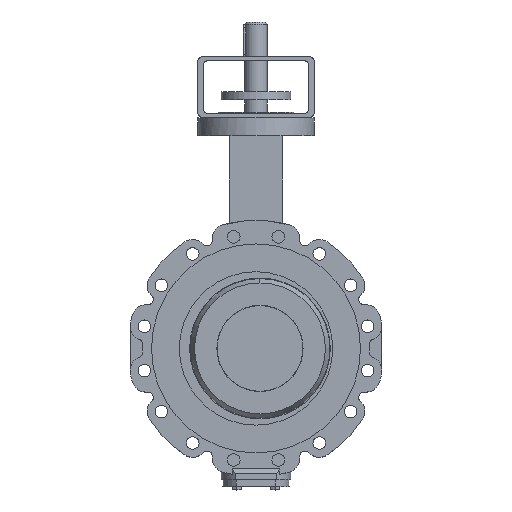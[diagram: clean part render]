
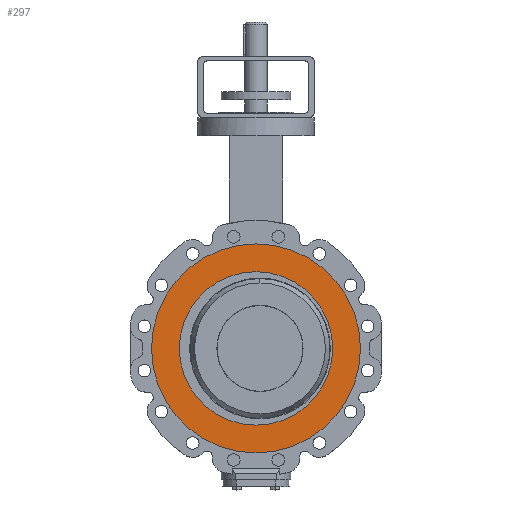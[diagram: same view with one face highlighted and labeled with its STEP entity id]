
A CAD part, top view. The second image highlights one B-rep face of the part: STEP entity #297.
In plain terms, the highlighted planar face has unit normal (0, 0, 1).
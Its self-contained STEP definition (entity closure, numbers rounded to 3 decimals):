
#297 = ADVANCED_FACE( '', ( #846, #847 ), #848, .T. );
#846 = FACE_BOUND( '', #1502, .T. );
#847 = FACE_OUTER_BOUND( '', #1503, .T. );
#848 = PLANE( '', #1504 );
#1502 = EDGE_LOOP( '', ( #3396, #3397, #3398 ) );
#1503 = EDGE_LOOP( '', ( #3399, #3400 ) );
#1504 = AXIS2_PLACEMENT_3D( '', #3401, #3402, #3403 );
#3396 = ORIENTED_EDGE( '', *, *, #4110, .F. );
#3397 = ORIENTED_EDGE( '', *, *, #4109, .F. );
#3398 = ORIENTED_EDGE( '', *, *, #4685, .F. );
#3399 = ORIENTED_EDGE( '', *, *, #4116, .T. );
#3400 = ORIENTED_EDGE( '', *, *, #4683, .T. );
#3401 = CARTESIAN_POINT( '', ( 0., 171.25, 61. ) );
#3402 = DIRECTION( '', ( 0., 0., 1. ) );
#3403 = DIRECTION( '', ( 0., 1., 0. ) );
#4109 = EDGE_CURVE( '', #4884, #4887, #4888, .T. );
#4110 = EDGE_CURVE( '', #4887, #4889, #4890, .T. );
#4116 = EDGE_CURVE( '', #4895, #4899, #4901, .T. );
#4683 = EDGE_CURVE( '', #4899, #4895, #5843, .T. );
#4685 = EDGE_CURVE( '', #4889, #4884, #5845, .T. );
#4884 = VERTEX_POINT( '', #6176 );
#4887 = VERTEX_POINT( '', #6180 );
#4888 = CIRCLE( '', #6181, 145. );
#4889 = VERTEX_POINT( '', #6182 );
#4890 = CIRCLE( '', #6183, 145. );
#4895 = VERTEX_POINT( '', #6189 );
#4899 = VERTEX_POINT( '', #6194 );
#4901 = CIRCLE( '', #6197, 197.5 );
#5843 = CIRCLE( '', #8081, 197.5 );
#5845 = CIRCLE( '', #8083, 145. );
#6176 = CARTESIAN_POINT( '', ( 145., 0., 61. ) );
#6180 = CARTESIAN_POINT( '', ( 0., 145., 61. ) );
#6181 = AXIS2_PLACEMENT_3D( '', #8585, #8586, #8587 );
#6182 = CARTESIAN_POINT( '', ( -145., 0., 61. ) );
#6183 = AXIS2_PLACEMENT_3D( '', #8588, #8589, #8590 );
#6189 = CARTESIAN_POINT( '', ( 0., 197.5, 61. ) );
#6194 = CARTESIAN_POINT( '', ( 0., -197.5, 61. ) );
#6197 = AXIS2_PLACEMENT_3D( '', #8600, #8601, #8602 );
#8081 = AXIS2_PLACEMENT_3D( '', #9643, #9644, #9645 );
#8083 = AXIS2_PLACEMENT_3D( '', #9649, #9650, #9651 );
#8585 = CARTESIAN_POINT( '', ( 0., 0., 61. ) );
#8586 = DIRECTION( '', ( 0., 0., 1. ) );
#8587 = DIRECTION( '', ( 0., 1., 0. ) );
#8588 = CARTESIAN_POINT( '', ( 0., 0., 61. ) );
#8589 = DIRECTION( '', ( 0., 0., 1. ) );
#8590 = DIRECTION( '', ( 0., 1., 0. ) );
#8600 = CARTESIAN_POINT( '', ( 0., 0., 61. ) );
#8601 = DIRECTION( '', ( 0., 0., 1. ) );
#8602 = DIRECTION( '', ( 0., 1., 0. ) );
#9643 = CARTESIAN_POINT( '', ( 0., 0., 61. ) );
#9644 = DIRECTION( '', ( 0., 0., 1. ) );
#9645 = DIRECTION( '', ( 0., 1., 0. ) );
#9649 = CARTESIAN_POINT( '', ( 0., 0., 61. ) );
#9650 = DIRECTION( '', ( 0., 0., 1. ) );
#9651 = DIRECTION( '', ( 0., 1., 0. ) );
